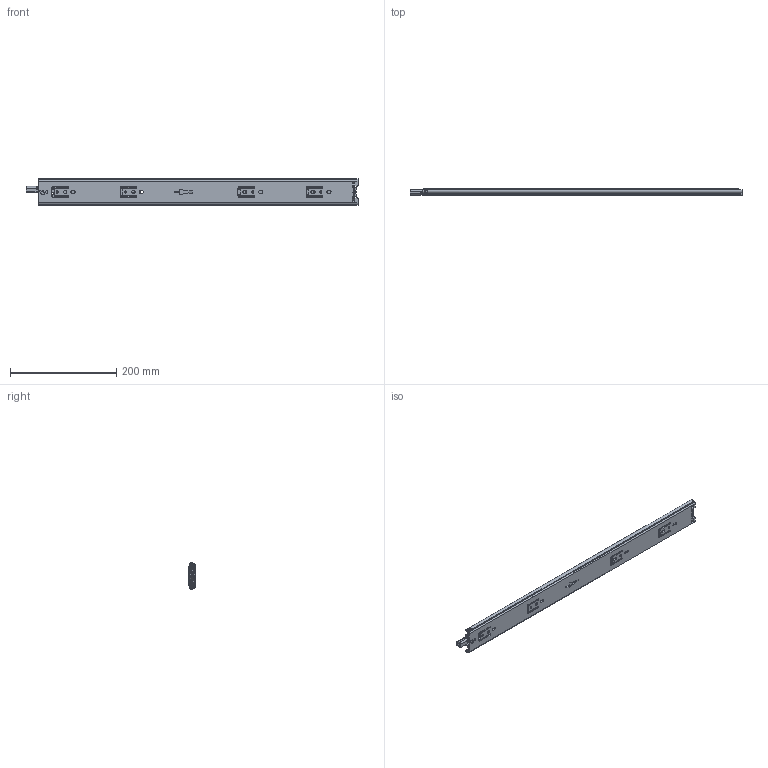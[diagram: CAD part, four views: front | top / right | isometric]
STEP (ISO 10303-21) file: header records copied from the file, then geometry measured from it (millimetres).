
FILE_DESCRIPTION((''),'2;1');
FILE_NAME('KP-50-3S-24YOU_ASM','2023-04-28T',('jishu015'),(''),'PRO/ENGINEER BY PARAMETRIC TECHNOLOGY CORPORATION, 2010280','PRO/ENGINEER BY PARAMETRIC TECHNOLOGY CORPORATION, 2010280','');
FILE_SCHEMA(('CONFIG_CONTROL_DESIGN'));
Products named in the file (19): KP-50-01WAIKE18________________; KP-50-01ZHONGGIU20__; ZHONGGUIPEIJIAN_____________; 50BAIKOU__________; KP-53-01ZHONGGUI-1854____ASM; KP-50-01ZHUJIA-16GE43___; 4-76GANZHU________________; KP-50-01ZHUJIA-16GE23____ASM; KP-50-01NEIGUI1832; YH1050BANJI_____________; PIAN_____________; JIAO_____________; DAOPIAN__________; ZOU-1__________; KP53-0NEIGUI_________________ASM; 50ZHUTIAO________________; 50ZHUTIAO_________________ASM; CHANGGUI1045WEIJIAO232_; KP-50-3S-24YOU_ASM
Assembly tree (72 placements, depth 3):
  KP-50-3S-24YOU_ASM
    KP-50-01WAIKE18________________
    KP-53-01ZHONGGUI-1854____ASM
      KP-50-01ZHONGGIU20__
      ZHONGGUIPEIJIAN_____________
      50BAIKOU__________
    KP-50-01ZHUJIA-16GE23____ASM
      KP-50-01ZHUJIA-16GE43___
      4-76GANZHU________________  x44
    KP53-0NEIGUI_________________ASM
      KP-50-01NEIGUI1832
      YH1050BANJI_____________
      PIAN_____________
      JIAO_____________
      DAOPIAN__________
      ZOU-1__________
    50ZHUTIAO_________________ASM  x2
      50ZHUTIAO________________
      4-76GANZHU________________
    CHANGGUI1045WEIJIAO232_
Bounding box: 623.8 x 13 x 50 mm (x, y, z)
Volume: 180022.6 mm3; surface area: 237935.3 mm2
Topology: 78 solids, 79 shells, 2047 faces, 5962 edges, 3676 vertices
Faces by surface type: cylinder 894, plane 816, bspline 145, sphere 130, torus 25, extrusion 23, cone 14
Entity records: 68660 total; most frequent: CARTESIAN_POINT 18348, ORIENTED_EDGE 10748, DIRECTION 10310, EDGE_CURVE 5376, AXIS2_PLACEMENT_3D 3510, VERTEX_POINT 3414, VECTOR 3290, LINE 3267
